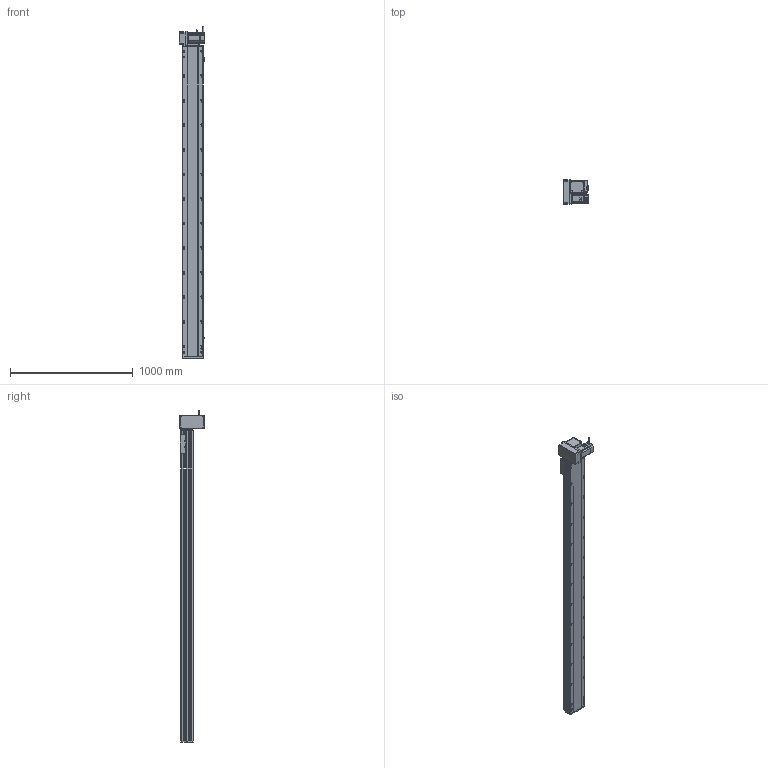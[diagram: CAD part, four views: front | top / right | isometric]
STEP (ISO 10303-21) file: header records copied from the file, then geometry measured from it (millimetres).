
FILE_DESCRIPTION (( 'STEP AP214' ), '1' );
FILE_NAME ('RTB17S-XX-2250-LM-M75-C4.STEP', '2025-12-12T00:45:34', ( '' ), ( '' ), 'SwSTEP 2.0', 'SolidWorks 2018', '' );
FILE_SCHEMA (( 'AUTOMOTIVE_DESIGN' ));
Length unit declared in the file: millimetre
Products named in the file (15): RTB22S-GY-005P^RTB17S-LM-々湍釱蚾饜-750W_RTB17S-XX-XX-LM-M75-C4; RTB17S-L-004-賑釱^RTB17S-賑釱_RTB17S-XX-XX-LM-M75-C4; RTB22S-GY-017P^RTB17S-LM-々湍釱蚾饜-750W_RTB17S-XX-XX-LM-M75-C4; RTB17S-L-007奻裔^RTB17S-XX-XX-LM-M75-C4; RTB17S-XX-2250-LM-M75-C4; EE672^RTB17S-XX-XX-LM-M75-C4; RTH13-BL-012覜茼え俋离^RTB17S-賑釱_RTB17S-XX-XX-LM-M75-C4; RTB17-R-011菁釱^RTB17S-XX-XX-LM-M75-C4; RTB22S-GY-018P^RTB17S-LM-々湍釱蚾饜-750W_RTB17S-XX-XX-LM-M75-C4; RTB22S-GY-008-M75--萇儂啣^RTB17S-LM-々湍釱蚾饜-750W_RTB17S-XX-XX-LM-M75-C4; 750W萇儂^RTB17S-XX-XX-LM-M75-C4; RTB17S-LM-々湍釱蚾饜-750W^RTB17S-XX-XX-LM-M75-C4; RTB17S-L-014-T20-P75--々湍釱^RTB17S-LM-々湍釱蚾饜-750W_RTB17S-XX-XX-LM-M75-C4; RTB17S-賑釱^RTB17S-XX-XX-LM-M75-C4; RTB17S-L-001-耜醱啣^RTB17S-XX-XX-LM-M75-C4
Assembly tree (17 placements, depth 3):
  RTB17S-XX-2250-LM-M75-C4
    RTB17-R-011菁釱^RTB17S-XX-XX-LM-M75-C4
    EE672^RTB17S-XX-XX-LM-M75-C4  x3
    RTB17S-L-001-耜醱啣^RTB17S-XX-XX-LM-M75-C4
    RTB17S-賑釱^RTB17S-XX-XX-LM-M75-C4
      RTB17S-L-004-賑釱^RTB17S-賑釱_RTB17S-XX-XX-LM-M75-C4
      RTH13-BL-012覜茼え俋离^RTB17S-賑釱_RTB17S-XX-XX-LM-M75-C4
    RTB17S-L-007奻裔^RTB17S-XX-XX-LM-M75-C4
    750W萇儂^RTB17S-XX-XX-LM-M75-C4
    RTB17S-LM-々湍釱蚾饜-750W^RTB17S-XX-XX-LM-M75-C4
      RTB17S-L-014-T20-P75--々湍釱^RTB17S-LM-々湍釱蚾饜-750W_RTB17S-XX-XX-LM-M75-C4
      RTB22S-GY-005P^RTB17S-LM-々湍釱蚾饜-750W_RTB17S-XX-XX-LM-M75-C4
      RTB22S-GY-017P^RTB17S-LM-々湍釱蚾饜-750W_RTB17S-XX-XX-LM-M75-C4  x2
      RTB22S-GY-008-M75--萇儂啣^RTB17S-LM-々湍釱蚾饜-750W_RTB17S-XX-XX-LM-M75-C4
      RTB22S-GY-018P^RTB17S-LM-々湍釱蚾饜-750W_RTB17S-XX-XX-LM-M75-C4
Bounding box: 210.4 x 200 x 2702.2 mm (x, y, z)
Volume: 20009845.4 mm3; surface area: 3608129.2 mm2
Topology: 17 solids, 17 shells, 2201 faces, 6160 edges, 3986 vertices
Faces by surface type: plane 984, cylinder 801, bspline 294, cone 110, sphere 8, torus 4
Entity records: 63478 total; most frequent: CARTESIAN_POINT 18824, ORIENTED_EDGE 9164, DIRECTION 8492, EDGE_CURVE 4582, AXIS2_PLACEMENT_3D 3006, VERTEX_POINT 2990, LINE 2480, VECTOR 2480
